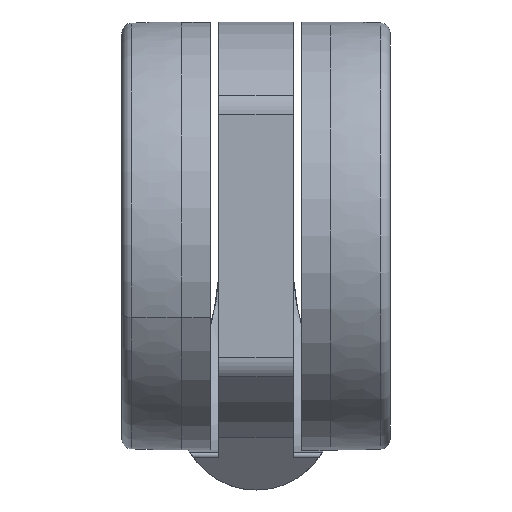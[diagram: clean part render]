
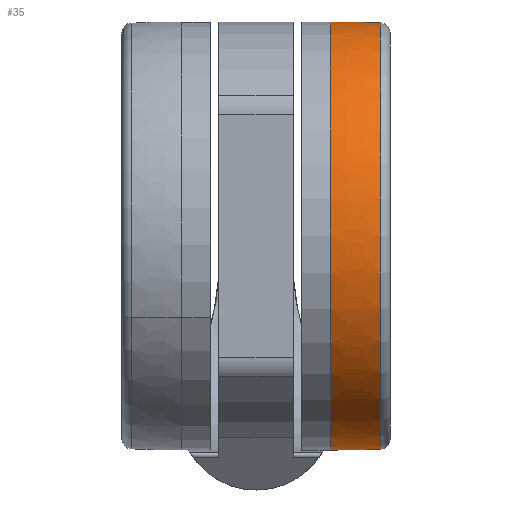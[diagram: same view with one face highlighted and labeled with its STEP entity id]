
A CAD part, front view. The second image highlights one B-rep face of the part: STEP entity #35.
In plain terms, the highlighted toroidal (fillet/blend) face has major radius 187.5 mm and minor radius 225 mm.
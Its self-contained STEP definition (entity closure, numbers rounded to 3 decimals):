
#35 = ADVANCED_FACE ( 'NONE', ( #1316 ), #592, .T. ) ;
#38 = CARTESIAN_POINT ( 'NONE',  ( 9., 0., 0. ) ) ;
#119 = CIRCLE ( 'NONE', #1162, 37.325 ) ;
#211 = CIRCLE ( 'NONE', #667, 225. ) ;
#258 = ORIENTED_EDGE ( 'NONE', *, *, #1682, .F. ) ;
#265 = DIRECTION ( 'NONE',  ( 0., -1., 0. ) ) ;
#300 = CARTESIAN_POINT ( 'NONE',  ( 17.867, 0., 0. ) ) ;
#328 = VERTEX_POINT ( 'NONE', #1031 ) ;
#354 = CARTESIAN_POINT ( 'NONE',  ( 9., 0., 187.5 ) ) ;
#374 = DIRECTION ( 'NONE',  ( -1., 0., 0. ) ) ;
#377 = AXIS2_PLACEMENT_3D ( 'NONE', #894, #265, #1487 ) ;
#421 = EDGE_CURVE ( 'NONE', #596, #1715, #211, .T. ) ;
#439 = DIRECTION ( 'NONE',  ( -1., 0., 0. ) ) ;
#474 = CIRCLE ( 'NONE', #1792, 37.5 ) ;
#492 = ORIENTED_EDGE ( 'NONE', *, *, #858, .T. ) ;
#500 = DIRECTION ( 'NONE',  ( -1., 0., 0. ) ) ;
#510 = DIRECTION ( 'NONE',  ( 0., 0., 1. ) ) ;
#592 = TOROIDAL_SURFACE ( 'NONE', #992, -187.5, 225. ) ;
#596 = VERTEX_POINT ( 'NONE', #1869 ) ;
#613 = EDGE_LOOP ( 'NONE', ( #1356, #492, #1331, #258 ) ) ;
#667 = AXIS2_PLACEMENT_3D ( 'NONE', #354, #1113, #510 ) ;
#711 = CARTESIAN_POINT ( 'NONE',  ( 9., 0., -37.5 ) ) ;
#830 = CARTESIAN_POINT ( 'NONE',  ( 9., 0., 37.5 ) ) ;
#858 = EDGE_CURVE ( 'NONE', #596, #328, #119, .T. ) ;
#894 = CARTESIAN_POINT ( 'NONE',  ( 9., 0., -187.5 ) ) ;
#992 = AXIS2_PLACEMENT_3D ( 'NONE', #1915, #500, #1741 ) ;
#999 = CIRCLE ( 'NONE', #377, 225. ) ;
#1031 = CARTESIAN_POINT ( 'NONE',  ( 17.867, 0., 37.325 ) ) ;
#1067 = DIRECTION ( 'NONE',  ( 0., 0., 1. ) ) ;
#1113 = DIRECTION ( 'NONE',  ( 0., 1., 0. ) ) ;
#1162 = AXIS2_PLACEMENT_3D ( 'NONE', #300, #439, #1067 ) ;
#1217 = VERTEX_POINT ( 'NONE', #830 ) ;
#1316 = FACE_OUTER_BOUND ( 'NONE', #613, .T. ) ;
#1331 = ORIENTED_EDGE ( 'NONE', *, *, #1797, .T. ) ;
#1356 = ORIENTED_EDGE ( 'NONE', *, *, #421, .F. ) ;
#1487 = DIRECTION ( 'NONE',  ( 0., 0., -1. ) ) ;
#1585 = DIRECTION ( 'NONE',  ( 0., 0., 1. ) ) ;
#1682 = EDGE_CURVE ( 'NONE', #1715, #1217, #474, .T. ) ;
#1715 = VERTEX_POINT ( 'NONE', #711 ) ;
#1741 = DIRECTION ( 'NONE',  ( 0., 0., 1. ) ) ;
#1792 = AXIS2_PLACEMENT_3D ( 'NONE', #38, #374, #1585 ) ;
#1797 = EDGE_CURVE ( 'NONE', #328, #1217, #999, .T. ) ;
#1869 = CARTESIAN_POINT ( 'NONE',  ( 17.867, 0., -37.325 ) ) ;
#1915 = CARTESIAN_POINT ( 'NONE',  ( 9., 0., 0. ) ) ;
